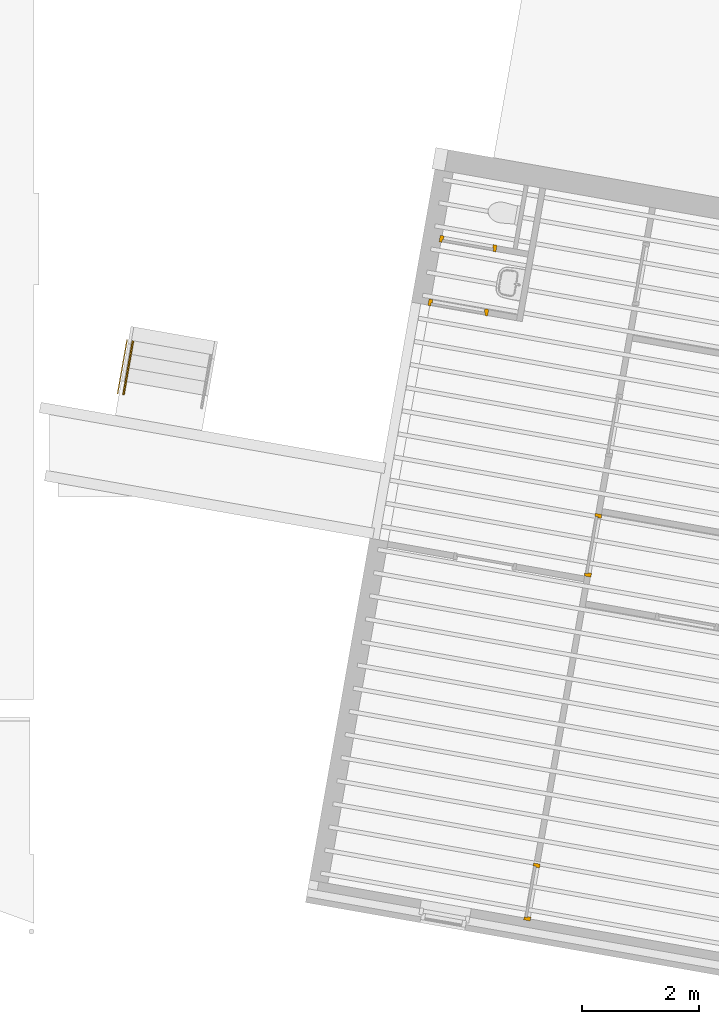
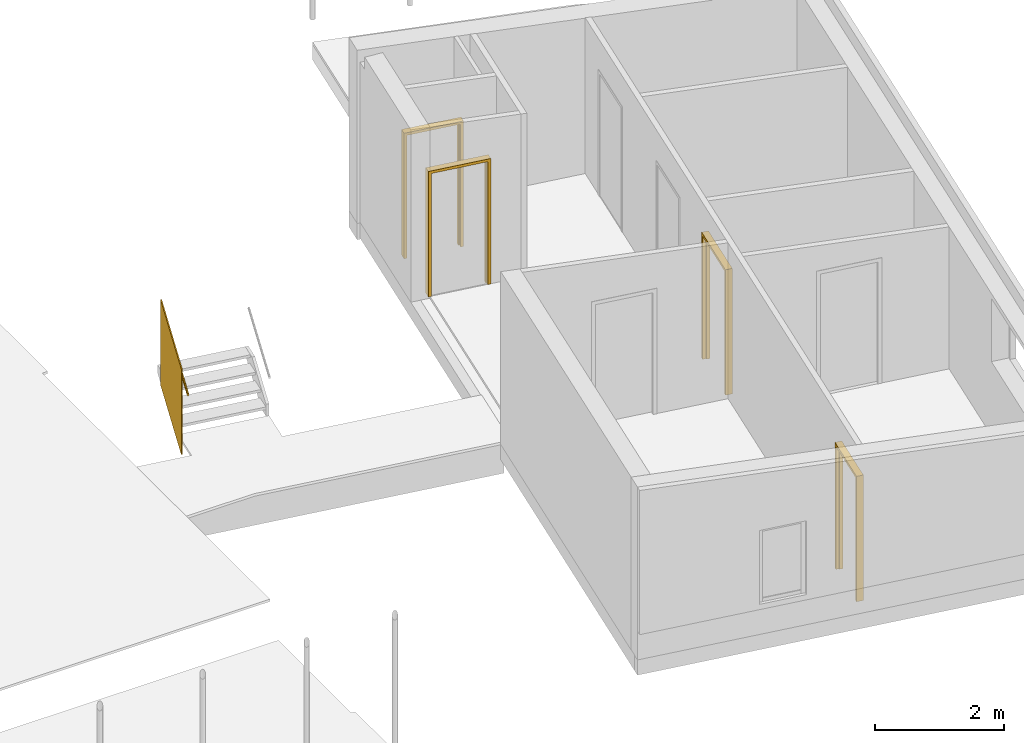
# One storey, part 7 of 7: 4 doors, 1 railing, 1 element without a shape of its own.
"""IFC2X3 building model written with IfcOpenShell, lengths in millimetres."""

from ifc_helpers import new_model, entity, si_unit, converted_unit, derived_unit, direction, frame, origin, place, context, subcontext, project, spatial, faceted_brep, source, transform, mapped, material, type_object, type_shapes, element, aggregate, save


model = new_model("IFC2X3")

# Units and contexts
model_context = context("Model", 3, precision=0.01, world=origin(), true_north=direction((6.12303176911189e-17, 1.0)))
body_context = subcontext(model_context, "Body", "Model", "MODEL_VIEW")
ifc_project = project(units=[si_unit("LENGTHUNIT", "METRE", prefix="MILLI"), si_unit("AREAUNIT", "SQUARE_METRE"), si_unit("VOLUMEUNIT", "CUBIC_METRE"), converted_unit("PLANEANGLEUNIT", "DEGREE", entity("IfcRatioMeasure", 0.0174532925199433), si_unit("PLANEANGLEUNIT", "RADIAN"), dimensions=[0, 0, 0, 0, 0, 0, 0]), si_unit("MASSUNIT", "GRAM", prefix="KILO"), derived_unit("MASSDENSITYUNIT", [(si_unit("MASSUNIT", "GRAM", prefix="KILO"), 1), (si_unit("LENGTHUNIT", "METRE"), -3)]), si_unit("TIMEUNIT", "SECOND"), si_unit("FREQUENCYUNIT", "HERTZ"), si_unit("THERMODYNAMICTEMPERATUREUNIT", "DEGREE_CELSIUS"), derived_unit("THERMALTRANSMITTANCEUNIT", [(si_unit("MASSUNIT", "GRAM", prefix="KILO"), 1), (si_unit("THERMODYNAMICTEMPERATUREUNIT", "KELVIN"), -1), (si_unit("TIMEUNIT", "SECOND"), -3)]), derived_unit("VOLUMETRICFLOWRATEUNIT", [(si_unit("LENGTHUNIT", "METRE"), 3), (si_unit("TIMEUNIT", "SECOND"), -1)]), si_unit("ELECTRICCURRENTUNIT", "AMPERE"), si_unit("ELECTRICVOLTAGEUNIT", "VOLT"), si_unit("POWERUNIT", "WATT"), si_unit("FORCEUNIT", "NEWTON", prefix="KILO"), si_unit("ILLUMINANCEUNIT", "LUX"), si_unit("LUMINOUSFLUXUNIT", "LUMEN"), si_unit("LUMINOUSINTENSITYUNIT", "CANDELA"), derived_unit("USERDEFINED", [(si_unit("MASSUNIT", "GRAM", prefix="KILO"), -1), (si_unit("LENGTHUNIT", "METRE"), -2), (si_unit("TIMEUNIT", "SECOND"), 3), (si_unit("LUMINOUSFLUXUNIT", "LUMEN"), 1)]), derived_unit("LINEARVELOCITYUNIT", [(si_unit("LENGTHUNIT", "METRE"), 1), (si_unit("TIMEUNIT", "SECOND"), -1)]), si_unit("PRESSUREUNIT", "PASCAL"), derived_unit("USERDEFINED", [(si_unit("LENGTHUNIT", "METRE"), -2), (si_unit("MASSUNIT", "GRAM", prefix="KILO"), 1), (si_unit("TIMEUNIT", "SECOND"), -2)])], contexts=[model_context])

# Site, building, storey
site_placement = place(None, origin())
site = spatial("IfcSite", under=ifc_project, at=site_placement, Name="<Kadaster Gemeente>;<Kadaster nummer>;<Kadaster sectie>", CompositionType="ELEMENT")
building_placement = place(site_placement, origin())
building = spatial("IfcBuilding", under=site, at=building_placement, Name="JRCZ Middelburg", CompositionType="ELEMENT")
storey_placement = place(building_placement, frame((0.0, 0.0, 3000.0)))
storey = spatial("IfcBuildingStorey", under=building, at=storey_placement, Name="01 eerste verdieping", CompositionType="ELEMENT", Elevation=3000.0)

# Doors
door_style_1 = type_object("IfcDoorStyle", Name="enkele deur_gen", ConstructionType="USERDEFINED", OperationType="NOTDEFINED", ParameterTakesPrecedence=False, Sizeable=False)
shared_shape_1 = source(origin(), body_context, "Body", "Brep", [
    faceted_brep([(467.0, 0.0, 0.0), (467.0, 54.0, 0.0), (450.0, 54.0, 0.0), (450.0, 114.0, 0.0), (517.0, 114.0, 0.0), (517.0, 0.0, 0.0), (467.0, 0.0, 2327.0), (467.0, 54.0, 2327.0), (467.0, 54.0, 2310.0), (450.0, 54.0, 2310.0), (450.0, 114.0, 2310.0), (517.0, 114.0, 2310.0), (517.0, 54.0, 2310.0), (517.0, 54.0, 2327.0), (517.0, 0.0, 2327.0)], [[[0, 1, 2, 3, 4, 5]], [[6, 7, 8, 1, 0]], [[2, 1, 8, 9]], [[3, 2, 9, 10]], [[4, 3, 10, 11]], [[5, 4, 11, 12, 13, 14]], [[14, 6, 0, 5]], [[6, 14, 13, 7]], [[8, 12, 11, 10, 9]], [[12, 8, 7, 13]]]),
    faceted_brep([(-517.0, 0.0, 2327.0), (-517.0, 0.0, 2377.0), (-517.0, 114.0, 2377.0), (-517.0, 114.0, 2310.0), (-517.0, 54.0, 2310.0), (-517.0, 54.0, 2327.0), (517.0, 0.0, 2327.0), (517.0, 54.0, 2327.0), (517.0, 54.0, 2310.0), (517.0, 114.0, 2310.0), (517.0, 114.0, 2377.0), (517.0, 0.0, 2377.0)], [[[0, 1, 2, 3, 4, 5]], [[6, 7, 8, 9, 10, 11]], [[5, 7, 6, 0]], [[4, 8, 7, 5]], [[3, 9, 8, 4]], [[2, 10, 9, 3]], [[1, 11, 10, 2]], [[0, 6, 11, 1]]]),
    faceted_brep([(-467.0, 0.0, 0.0), (-517.0, 0.0, 0.0), (-517.0, 114.0, 0.0), (-450.0, 114.0, 0.0), (-450.0, 54.0, 0.0), (-467.0, 54.0, 0.0), (-467.0, 0.0, 2327.0), (-467.0, 54.0, 2310.0), (-467.0, 54.0, 2327.0), (-450.0, 54.0, 2310.0), (-450.0, 114.0, 2310.0), (-517.0, 114.0, 2310.0), (-517.0, 0.0, 2327.0), (-517.0, 54.0, 2327.0), (-517.0, 54.0, 2310.0)], [[[0, 1, 2, 3, 4, 5]], [[6, 0, 5, 7, 8]], [[4, 9, 7, 5]], [[3, 10, 9, 4]], [[2, 11, 10, 3]], [[1, 12, 13, 14, 11, 2]], [[12, 1, 0, 6]], [[6, 8, 13, 12]], [[7, 9, 10, 11, 14]], [[14, 13, 8, 7]]]),
])
type_shapes(door_style_1, [shared_shape_1])
door_1_placement = place(storey_placement, frame((24278.1019595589, 16778.9216066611, 0.0), z_axis=(0.0, 0.0, 1.0), x_axis=(0.984807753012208, -0.173648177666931, 0.0)))
element("IfcDoor", 1, at=door_1_placement, inside=storey, type_object=door_style_1, Name="NLRS_32_DO_UN_samenstelling binnenkozijn hout-SH_generiek_ISR:enkele deur_gen", ObjectType="NLRS_32_DO_UN_samenstelling binnenkozijn hout-SH_generiek_ISR:enkele deur_gen", OverallHeight=2377.00000000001, OverallWidth=1034.0, context=body_context, shape_type="MappedRepresentation", body=[
    mapped(shared_shape_1, transform((0.0, 0.0, 0.0), scale=1.0)),
])
door_style_2 = type_object("IfcDoorStyle", Name="enkele deur_gen", ConstructionType="USERDEFINED", OperationType="NOTDEFINED", ParameterTakesPrecedence=False, Sizeable=False)
shared_shape_2 = source(origin(), body_context, "Body", "Brep", [
    faceted_brep([(492.0, 0.0, 0.0), (542.0, 0.0, 0.0), (542.0, -114.0, 0.0), (475.0, -114.0, 0.0), (475.0, -54.0, 0.0), (492.0, -54.0, 0.0), (492.0, 0.0, 2327.0), (492.0, -54.0, 2310.0), (492.0, -54.0, 2327.0), (475.0, -54.0, 2310.0), (475.0, -114.0, 2310.0), (542.0, -114.0, 2310.0), (542.0, 0.0, 2327.0), (542.0, -54.0, 2327.0), (542.0, -54.0, 2310.0)], [[[0, 1, 2, 3, 4, 5]], [[6, 0, 5, 7, 8]], [[4, 9, 7, 5]], [[3, 10, 9, 4]], [[2, 11, 10, 3]], [[1, 12, 13, 14, 11, 2]], [[12, 1, 0, 6]], [[6, 8, 13, 12]], [[7, 9, 10, 11, 14]], [[14, 13, 8, 7]]]),
    faceted_brep([(-542.0, 0.0, 2327.0), (-542.0, -54.0, 2327.0), (-542.0, -54.0, 2310.0), (-542.0, -114.0, 2310.0), (-542.0, -114.0, 2377.0), (-542.0, 0.0, 2377.0), (542.0, 0.0, 2327.0), (542.0, 0.0, 2377.0), (542.0, -114.0, 2377.0), (542.0, -114.0, 2310.0), (542.0, -54.0, 2310.0), (542.0, -54.0, 2327.0)], [[[0, 1, 2, 3, 4, 5]], [[6, 7, 8, 9, 10, 11]], [[1, 0, 6, 11]], [[2, 1, 11, 10]], [[3, 2, 10, 9]], [[4, 3, 9, 8]], [[5, 4, 8, 7]], [[0, 5, 7, 6]]]),
    faceted_brep([(-492.0, 0.0, 0.0), (-492.0, -54.0, 0.0), (-475.0, -54.0, 0.0), (-475.0, -114.0, 0.0), (-542.0, -114.0, 0.0), (-542.0, 0.0, 0.0), (-492.0, 0.0, 2327.0), (-492.0, -54.0, 2327.0), (-492.0, -54.0, 2310.0), (-475.0, -54.0, 2310.0), (-475.0, -114.0, 2310.0), (-542.0, -114.0, 2310.0), (-542.0, -54.0, 2310.0), (-542.0, -54.0, 2327.0), (-542.0, 0.0, 2327.0)], [[[0, 1, 2, 3, 4, 5]], [[6, 7, 8, 1, 0]], [[2, 1, 8, 9]], [[3, 2, 9, 10]], [[4, 3, 10, 11]], [[5, 4, 11, 12, 13, 14]], [[14, 6, 0, 5]], [[6, 14, 13, 7]], [[8, 12, 11, 10, 9]], [[12, 8, 7, 13]]]),
])
type_shapes(door_style_2, [shared_shape_2])
door_2_placement = place(storey_placement, frame((26528.0765972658, 12792.6572991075, 0.0), z_axis=(0.0, 0.0, 1.0), x_axis=(0.17364817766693, 0.984807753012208, 0.0)))
element("IfcDoor", 2, at=door_2_placement, inside=storey, type_object=door_style_2, Name="NLRS_32_DO_UN_samenstelling binnenkozijn hout-SH_generiek_ISR:enkele deur_gen", ObjectType="NLRS_32_DO_UN_samenstelling binnenkozijn hout-SH_generiek_ISR:enkele deur_gen", OverallHeight=2377.00000000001, OverallWidth=1084.0, context=body_context, shape_type="MappedRepresentation", body=[
    mapped(shared_shape_2, transform((0.0, 0.0, 0.0), scale=1.0)),
])
door_style_3 = type_object("IfcDoorStyle", Name="enkele deur_gen", ConstructionType="USERDEFINED", OperationType="NOTDEFINED", ParameterTakesPrecedence=False, Sizeable=False)
shared_shape_3 = source(origin(), body_context, "Body", "Brep", [
    faceted_brep([(442.0, 0.0, 0.0), (442.0, 54.0, 0.0), (425.0, 54.0, 0.0), (425.0, 114.0, 0.0), (492.0, 114.0, 0.0), (492.0, 0.0, 0.0), (442.0, 0.0, 2327.0), (442.0, 54.0, 2327.0), (442.0, 54.0, 2310.0), (425.0, 54.0, 2310.0), (425.0, 114.0, 2310.0), (492.0, 114.0, 2310.0), (492.0, 54.0, 2310.0), (492.0, 54.0, 2327.0), (492.0, 0.0, 2327.0)], [[[0, 1, 2, 3, 4, 5]], [[6, 7, 8, 1, 0]], [[2, 1, 8, 9]], [[3, 2, 9, 10]], [[4, 3, 10, 11]], [[5, 4, 11, 12, 13, 14]], [[14, 6, 0, 5]], [[6, 14, 13, 7]], [[8, 12, 11, 10, 9]], [[12, 8, 7, 13]]]),
    faceted_brep([(-492.0, 0.0, 2327.0), (-492.0, 0.0, 2377.0), (-492.0, 114.0, 2377.0), (-492.0, 114.0, 2310.0), (-492.0, 54.0, 2310.0), (-492.0, 54.0, 2327.0), (492.0, 0.0, 2327.0), (492.0, 54.0, 2327.0), (492.0, 54.0, 2310.0), (492.0, 114.0, 2310.0), (492.0, 114.0, 2377.0), (492.0, 0.0, 2377.0)], [[[0, 1, 2, 3, 4, 5]], [[6, 7, 8, 9, 10, 11]], [[5, 7, 6, 0]], [[4, 8, 7, 5]], [[3, 9, 8, 4]], [[2, 10, 9, 3]], [[1, 11, 10, 2]], [[0, 6, 11, 1]]]),
    faceted_brep([(-442.0, 0.0, 0.0), (-492.0, 0.0, 0.0), (-492.0, 114.0, 0.0), (-425.0, 114.0, 0.0), (-425.0, 54.0, 0.0), (-442.0, 54.0, 0.0), (-442.0, 0.0, 2327.0), (-442.0, 54.0, 2310.0), (-442.0, 54.0, 2327.0), (-425.0, 54.0, 2310.0), (-425.0, 114.0, 2310.0), (-492.0, 114.0, 2310.0), (-492.0, 0.0, 2327.0), (-492.0, 54.0, 2327.0), (-492.0, 54.0, 2310.0)], [[[0, 1, 2, 3, 4, 5]], [[6, 0, 5, 7, 8]], [[4, 9, 7, 5]], [[3, 10, 9, 4]], [[2, 11, 10, 3]], [[1, 12, 13, 14, 11, 2]], [[12, 1, 0, 6]], [[6, 8, 13, 12]], [[7, 9, 10, 11, 14]], [[14, 13, 8, 7]]]),
])
type_shapes(door_style_3, [shared_shape_3])
door_3_placement = place(storey_placement, frame((24444.4947611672, 17866.5513394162, 0.0), z_axis=(0.0, 0.0, 1.0), x_axis=(0.984807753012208, -0.173648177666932, 0.0)))
element("IfcDoor", 3, at=door_3_placement, inside=storey, type_object=door_style_3, Name="NLRS_32_DO_UN_samenstelling binnenkozijn hout-SH_generiek_ISR:enkele deur_gen", ObjectType="NLRS_32_DO_UN_samenstelling binnenkozijn hout-SH_generiek_ISR:enkele deur_gen", OverallHeight=2377.00000000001, OverallWidth=984.000000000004, context=body_context, shape_type="MappedRepresentation", body=[
    mapped(shared_shape_3, transform((0.0, 0.0, 0.0), scale=1.0)),
])
door_style_4 = type_object("IfcDoorStyle", Name="enkele deur_gen", ConstructionType="USERDEFINED", OperationType="NOTDEFINED", ParameterTakesPrecedence=False, Sizeable=False)
shared_shape_4 = source(origin(), body_context, "Body", "Brep", [
    faceted_brep([(442.0, 0.0, 0.0), (492.0, 0.0, 0.0), (492.0, -114.0, 0.0), (425.0, -114.0, 0.0), (425.0, -54.0, 0.0), (442.0, -54.0, 0.0), (442.0, 0.0, 2327.0), (442.0, -54.0, 2310.0), (442.0, -54.0, 2327.0), (425.0, -54.0, 2310.0), (425.0, -114.0, 2310.0), (492.0, -114.0, 2310.0), (492.0, 0.0, 2327.0), (492.0, -54.0, 2327.0), (492.0, -54.0, 2310.0)], [[[0, 1, 2, 3, 4, 5]], [[6, 0, 5, 7, 8]], [[4, 9, 7, 5]], [[3, 10, 9, 4]], [[2, 11, 10, 3]], [[1, 12, 13, 14, 11, 2]], [[12, 1, 0, 6]], [[6, 8, 13, 12]], [[7, 9, 10, 11, 14]], [[14, 13, 8, 7]]]),
    faceted_brep([(-492.0, 0.0, 2327.0), (-492.0, -54.0, 2327.0), (-492.0, -54.0, 2310.0), (-492.0, -114.0, 2310.0), (-492.0, -114.0, 2377.0), (-492.0, 0.0, 2377.0), (492.0, 0.0, 2327.0), (492.0, 0.0, 2377.0), (492.0, -114.0, 2377.0), (492.0, -114.0, 2310.0), (492.0, -54.0, 2310.0), (492.0, -54.0, 2327.0)], [[[0, 1, 2, 3, 4, 5]], [[6, 7, 8, 9, 10, 11]], [[1, 0, 6, 11]], [[2, 1, 11, 10]], [[3, 2, 10, 9]], [[4, 3, 9, 8]], [[5, 4, 8, 7]], [[0, 5, 7, 6]]]),
    faceted_brep([(-442.0, 0.0, 0.0), (-442.0, -54.0, 0.0), (-425.0, -54.0, 0.0), (-425.0, -114.0, 0.0), (-492.0, -114.0, 0.0), (-492.0, 0.0, 0.0), (-442.0, 0.0, 2327.0), (-442.0, -54.0, 2327.0), (-442.0, -54.0, 2310.0), (-425.0, -54.0, 2310.0), (-425.0, -114.0, 2310.0), (-492.0, -114.0, 2310.0), (-492.0, -54.0, 2310.0), (-492.0, -54.0, 2327.0), (-492.0, 0.0, 2327.0)], [[[0, 1, 2, 3, 4, 5]], [[6, 7, 8, 1, 0]], [[2, 1, 8, 9]], [[3, 2, 9, 10]], [[4, 3, 10, 11]], [[5, 4, 11, 12, 13, 14]], [[14, 6, 0, 5]], [[6, 14, 13, 7]], [[8, 12, 11, 10, 9]], [[12, 8, 7, 13]]]),
])
type_shapes(door_style_4, [shared_shape_4])
door_4_placement = place(storey_placement, frame((25486.1875312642, 6883.81078103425, 0.0), z_axis=(0.0, 0.0, 1.0), x_axis=(0.17364817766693, 0.984807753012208, 0.0)))
element("IfcDoor", 4, at=door_4_placement, inside=storey, type_object=door_style_4, Name="NLRS_32_DO_UN_samenstelling binnenkozijn hout-SH_generiek_ISR:enkele deur_gen", ObjectType="NLRS_32_DO_UN_samenstelling binnenkozijn hout-SH_generiek_ISR:enkele deur_gen", OverallHeight=2377.00000000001, OverallWidth=984.000000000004, context=body_context, shape_type="MappedRepresentation", body=[
    mapped(shared_shape_4, transform((0.0, 0.0, 0.0), scale=1.0)),
])

# Stair, railing
stair_placement = place(storey_placement, origin())
stair = element("IfcStair", 5, at=stair_placement, inside=storey, Name="Assembled Stair:Stair", ObjectType="Assembled Stair:RBM_ST_houten trap", ShapeType="NOTDEFINED")
ifc_material = material(Name="Glass_RIPO")
railing_placement = place(stair_placement, frame((18471.6533387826, 15336.5674704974, -220.860503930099)))
railing = element("IfcRailing", 6, at=railing_placement, material=ifc_material, Name="Railing:RBM_RA_glasbalustrade 02 TRAP", ObjectType="Railing:RBM_RA_glasbalustrade 02 TRAP", PredefinedType="NOTDEFINED", context=body_context, shape_type="Brep", body=[
    faceted_brep([(163.071525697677, 949.938178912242, 2320.8605039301), (182.768272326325, 946.468571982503, 2320.8605039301), (182.768272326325, 946.468571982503, 700.0), (163.071525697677, 949.938178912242, 700.0), (0.0, 24.1910873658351, 1620.8605039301), (0.0, 24.1910873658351, 0.0), (19.6967466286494, 20.7214804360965, 0.0), (19.6967466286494, 20.7214804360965, 1620.8605039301)], [[[0, 1, 2, 3]], [[4, 5, 6, 7]], [[0, 3, 5, 4]], [[3, 2, 6, 5]], [[2, 1, 7, 6]], [[1, 0, 4, 7]]]),
    faceted_brep([(128.275062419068, 1.5952722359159, 1111.50866346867), (126.668138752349, 1.87833388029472, 1115.03232073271), (125.06121508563, 2.16139552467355, 1118.55597799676), (123.454291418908, 2.44445716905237, 1122.07963526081), (121.847367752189, 2.7275188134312, 1125.60329252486), (118.894486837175, 3.247672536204, 1132.0783606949), (114.204199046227, 4.07387268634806, 1132.0783606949), (109.513911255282, 4.90007283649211, 1132.0783606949), (104.823623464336, 5.72627298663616, 1132.0783606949), (100.133335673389, 6.55247313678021, 1132.0783606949), (97.788191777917, 6.96557321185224, 1126.93593638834), (95.4430478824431, 7.37867328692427, 1121.79351208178), (93.9666074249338, 7.63875014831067, 1118.55597799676), (92.3596837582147, 7.92181179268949, 1115.03232073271), (90.7527600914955, 8.20487343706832, 1111.50866346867), (92.3596837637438, 7.92181179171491, 1107.98500619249), (93.9666074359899, 7.63875014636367, 1104.46134891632), (95.4430478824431, 7.37867328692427, 1101.22381485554), (97.788191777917, 6.96557321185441, 1096.08139054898), (100.133335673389, 6.55247313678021, 1090.93896624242), (104.823623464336, 5.72627298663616, 1090.93896624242), (109.513911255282, 4.90007283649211, 1090.93896624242), (114.204199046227, 4.07387268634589, 1090.93896624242), (118.894486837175, 3.247672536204, 1090.93896624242), (121.239630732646, 2.83457246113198, 1096.08139054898), (123.584774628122, 2.42147238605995, 1101.22381485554), (125.929918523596, 2.00837231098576, 1106.3662391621), (291.346588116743, 927.342363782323, 1811.50866346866), (289.739664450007, 927.625425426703, 1807.98500620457), (288.132740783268, 927.908487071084, 1804.46134894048), (286.656300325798, 928.168563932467, 1801.22381485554), (284.311156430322, 928.581664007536, 1796.08139054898), (281.96601253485, 928.994764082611, 1790.93896624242), (277.275724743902, 929.820964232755, 1790.93896624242), (272.585436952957, 930.647164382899, 1790.93896624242), (267.895149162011, 931.473364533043, 1790.93896624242), (263.204861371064, 932.299564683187, 1790.93896624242), (260.251980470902, 932.819718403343, 1797.41403437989), (258.645056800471, 933.102780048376, 1800.93769165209), (257.038133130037, 933.385841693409, 1804.46134892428), (255.431209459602, 933.668903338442, 1807.98500619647), (253.824285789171, 933.951964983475, 1811.50866346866), (256.169429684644, 933.538864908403, 1816.65108777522), (258.514573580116, 933.125764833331, 1821.79351208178), (260.85971747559, 932.712664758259, 1826.93593638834), (263.204861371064, 932.299564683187, 1832.0783606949), (267.895149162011, 931.473364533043, 1832.0783606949), (272.585436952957, 930.647164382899, 1832.0783606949), (277.275724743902, 929.820964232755, 1832.0783606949), (281.96601253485, 928.994764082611, 1832.0783606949), (284.311156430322, 928.581664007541, 1826.93593638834), (286.656300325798, 928.168563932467, 1821.79351208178), (289.001444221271, 927.755463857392, 1816.65108777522)], [[[0, 1, 2, 3, 4, 5, 6, 7, 8, 9, 10, 11, 12, 13, 14, 15, 16, 17, 18, 19, 20, 21, 22, 23, 24, 25, 26]], [[27, 28, 29, 30, 31, 32, 33, 34, 35, 36, 37, 38, 39, 40, 41, 42, 43, 44, 45, 46, 47, 48, 49, 50, 51, 52]], [[5, 4, 3, 2, 1, 0, 27, 52, 51, 50, 49]], [[11, 10, 9, 45, 44, 43, 42, 41, 14, 13, 12]], [[7, 6, 5, 49, 48, 47, 46, 45, 9, 8]], [[17, 16, 15, 14, 41, 40, 39, 38, 37, 36, 19, 18]], [[34, 33, 32, 23, 22, 21, 20, 19, 36, 35]], [[29, 28, 27, 0, 26, 25, 24, 23, 32, 31, 30]]]),
])
aggregate(stair, [railing])

save(model, "model.ifc")
